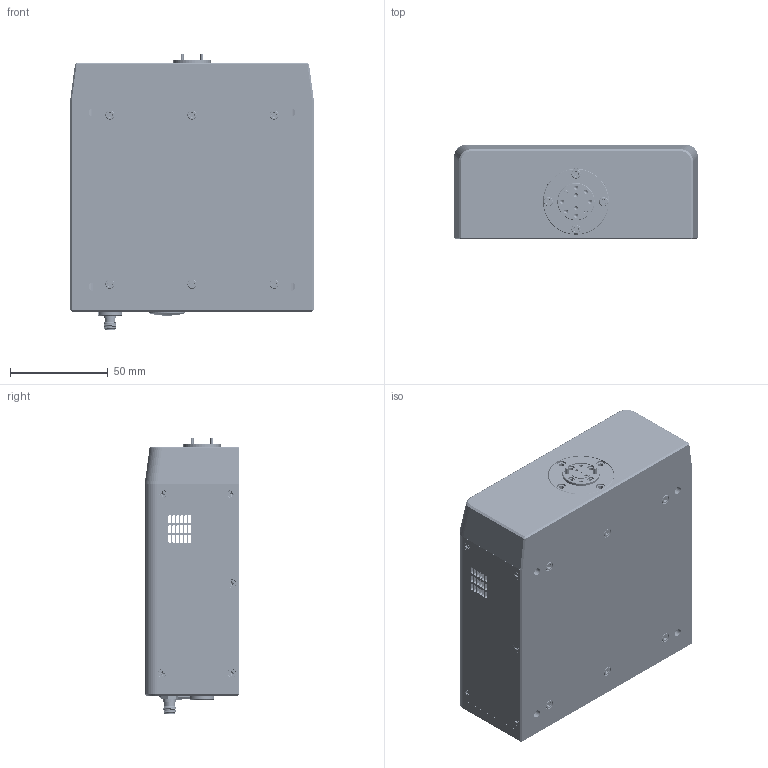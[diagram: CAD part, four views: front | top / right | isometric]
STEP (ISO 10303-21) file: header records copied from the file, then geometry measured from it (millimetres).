
FILE_DESCRIPTION (( 'STEP AP214' ), '1' );
FILE_NAME ('TE-03-A, Mountable.STEP', '2025-01-09T20:22:34', ( '' ), ( '' ), 'SwSTEP 2.0', 'SolidWorks 2021', '' );
FILE_SCHEMA (( 'AUTOMOTIVE_DESIGN' ));
Length unit declared in the file: inch
Products named in the file (1): TE-03-A, Mountable
Bounding box: 124.32 x 48.26 x 141.1 mm (x, y, z)
Volume: 287728.9 mm3; surface area: 142551.7 mm2
Topology: 47 solids, 47 shells, 3414 faces, 9135 edges, 5815 vertices
Faces by surface type: cylinder 1664, plane 1021, cone 571, bspline 127, torus 28, sphere 3
Entity records: 190885 total; most frequent: CARTESIAN_POINT 67165, ORIENTED_EDGE 17958, DIRECTION 14933, EDGE_CURVE 8979, VERTEX_POINT 5814, AXIS2_PLACEMENT_3D 5527, LINE 3879, VECTOR 3879
